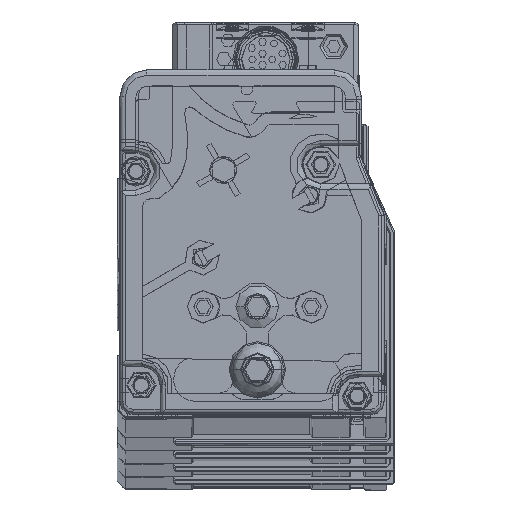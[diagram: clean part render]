
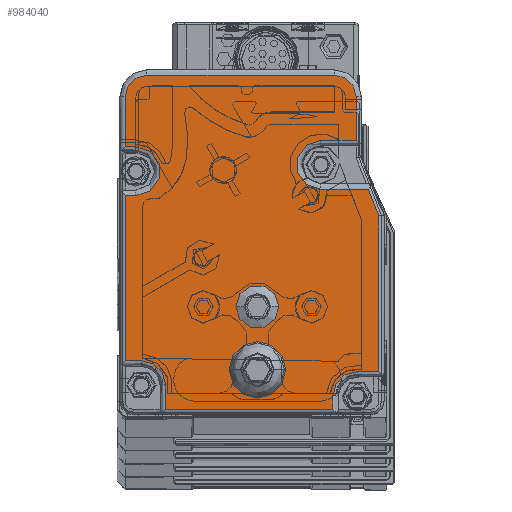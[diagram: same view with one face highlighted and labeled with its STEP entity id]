
A CAD part, top view. The second image highlights one B-rep face of the part: STEP entity #984040.
In plain terms, the highlighted planar face has unit normal (0, 0, 1).
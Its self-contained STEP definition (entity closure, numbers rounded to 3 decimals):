
#981930=CARTESIAN_POINT('',(-20.265,1.758,
4372.39));
#981940=DIRECTION('',(0.,0.,-1.));
#981950=DIRECTION('',(-1.,0.,0.));
#981960=AXIS2_PLACEMENT_3D('',#981930,#981940,#981950);
#981970=PLANE('',#981960);
#981980=CARTESIAN_POINT('',(-44.056,10.421,
4372.39));
#981990=DIRECTION('',(0.,0.,-1.));
#982000=DIRECTION('',(-1.,0.,0.));
#982010=AXIS2_PLACEMENT_3D('',#981980,#981990,#982000);
#982020=CIRCLE('',#982010,5.);
#982030=CARTESIAN_POINT('',(-49.056,10.421,
4372.39));
#982040=VERTEX_POINT('',#982030);
#982050=CARTESIAN_POINT('',(-39.056,10.421,
4372.39));
#982060=VERTEX_POINT('',#982050);
#982070=EDGE_CURVE('',#982040,#982060,#982020,.T.);
#982080=ORIENTED_EDGE('',*,*,#982070,.T.);
#982090=EDGE_CURVE('',#982060,#982040,#982020,.T.);
#982100=ORIENTED_EDGE('',*,*,#982090,.T.);
#982110=EDGE_LOOP('',(#982100,#982080));
#982120=FACE_BOUND('',#982110,.T.);
#982130=CARTESIAN_POINT('',(-44.059,22.124,
4372.39));
#982140=DIRECTION('',(0.,0.,1.));
#982150=DIRECTION('',(-1.,0.,0.));
#982160=AXIS2_PLACEMENT_3D('',#982130,#982140,#982150);
#982170=CIRCLE('',#982160,4.);
#982180=CARTESIAN_POINT('',(-40.059,22.124,
4372.39));
#982190=VERTEX_POINT('',#982180);
#982200=CARTESIAN_POINT('',(-48.059,22.124,
4372.39));
#982210=VERTEX_POINT('',#982200);
#982220=EDGE_CURVE('',#982190,#982210,#982170,.T.);
#982230=ORIENTED_EDGE('',*,*,#982220,.F.);
#982240=EDGE_CURVE('',#982210,#982190,#982170,.T.);
#982250=ORIENTED_EDGE('',*,*,#982240,.F.);
#982260=EDGE_LOOP('',(#982250,#982230));
#982270=FACE_BOUND('',#982260,.T.);
#982280=CARTESIAN_POINT('',(-61.059,2.124,
4372.39));
#982290=DIRECTION('',(0.,-1.,0.));
#982300=VECTOR('',#982290,1.);
#982310=LINE('',#982280,#982300);
#982320=CARTESIAN_POINT('',(-61.059,7.624,
4372.39));
#982330=VERTEX_POINT('',#982320);
#982340=CARTESIAN_POINT('',(-61.059,3.124,
4372.39));
#982350=VERTEX_POINT('',#982340);
#982360=EDGE_CURVE('',#982330,#982350,#982310,.T.);
#982370=ORIENTED_EDGE('',*,*,#982360,.T.);
#982380=CARTESIAN_POINT('',(-65.559,7.624,
4372.39));
#982390=DIRECTION('',(0.,0.,-1.));
#982400=DIRECTION('',(-1.,0.,0.));
#982410=AXIS2_PLACEMENT_3D('',#982380,#982390,#982400);
#982420=CIRCLE('',#982410,4.5);
#982430=CARTESIAN_POINT('',(-65.559,12.124,
4372.39));
#982440=VERTEX_POINT('',#982430);
#982450=EDGE_CURVE('',#982440,#982330,#982420,.T.);
#982460=ORIENTED_EDGE('',*,*,#982450,.T.);
#982470=CARTESIAN_POINT('',(-20.559,12.124,
4372.39));
#982480=DIRECTION('',(1.,0.,0.));
#982490=VECTOR('',#982480,1.);
#982500=LINE('',#982470,#982490);
#982510=CARTESIAN_POINT('',(-68.559,12.124,
4372.39));
#982520=VERTEX_POINT('',#982510);
#982530=EDGE_CURVE('',#982520,#982440,#982500,.T.);
#982540=ORIENTED_EDGE('',*,*,#982530,.T.);
#982550=CARTESIAN_POINT('',(-68.559,2.124,
4372.39));
#982560=DIRECTION('',(0.,-1.,0.));
#982570=VECTOR('',#982560,1.);
#982580=LINE('',#982550,#982570);
#982590=CARTESIAN_POINT('',(-68.559,42.727,
4372.39));
#982600=VERTEX_POINT('',#982590);
#982610=EDGE_CURVE('',#982600,#982520,#982580,.T.);
#982620=ORIENTED_EDGE('',*,*,#982610,.T.);
#982630=CARTESIAN_POINT('',(-20.559,42.727,
4372.39));
#982640=DIRECTION('',(-1.,0.,0.));
#982650=VECTOR('',#982640,1.);
#982660=LINE('',#982630,#982650);
#982670=CARTESIAN_POINT('',(-66.559,42.727,
4372.39));
#982680=VERTEX_POINT('',#982670);
#982690=EDGE_CURVE('',#982680,#982600,#982660,.T.);
#982700=ORIENTED_EDGE('',*,*,#982690,.T.);
#982710=CARTESIAN_POINT('',(-66.559,47.227,
4372.39));
#982720=DIRECTION('',(0.,0.,-1.));
#982730=DIRECTION('',(-1.,0.,0.));
#982740=AXIS2_PLACEMENT_3D('',#982710,#982720,#982730);
#982750=CIRCLE('',#982740,4.5);
#982760=CARTESIAN_POINT('',(-66.559,51.727,
4372.39));
#982770=VERTEX_POINT('',#982760);
#982780=EDGE_CURVE('',#982770,#982680,#982750,.T.);
#982790=ORIENTED_EDGE('',*,*,#982780,.T.);
#982800=CARTESIAN_POINT('',(-20.559,51.727,
4372.39));
#982810=DIRECTION('',(1.,0.,0.));
#982820=VECTOR('',#982810,1.);
#982830=LINE('',#982800,#982820);
#982840=CARTESIAN_POINT('',(-68.559,51.727,
4372.39));
#982850=VERTEX_POINT('',#982840);
#982860=EDGE_CURVE('',#982850,#982770,#982830,.T.);
#982870=ORIENTED_EDGE('',*,*,#982860,.T.);
#982880=CARTESIAN_POINT('',(-68.559,2.124,
4372.39));
#982890=DIRECTION('',(0.,-1.,0.));
#982900=VECTOR('',#982890,1.);
#982910=LINE('',#982880,#982900);
#982920=CARTESIAN_POINT('',(-68.559,61.024,
4372.39));
#982930=VERTEX_POINT('',#982920);
#982940=EDGE_CURVE('',#982930,#982850,#982910,.T.);
#982950=ORIENTED_EDGE('',*,*,#982940,.T.);
#982960=CARTESIAN_POINT('',(-64.559,61.024,
4372.39));
#982970=DIRECTION('',(0.,0.,1.));
#982980=DIRECTION('',(1.,0.,0.));
#982990=AXIS2_PLACEMENT_3D('',#982960,#982970,#982980);
#983000=CIRCLE('',#982990,4.);
#983010=CARTESIAN_POINT('',(-64.559,65.024,
4372.39));
#983020=VERTEX_POINT('',#983010);
#983030=EDGE_CURVE('',#983020,#982930,#983000,.T.);
#983040=ORIENTED_EDGE('',*,*,#983030,.T.);
#983050=CARTESIAN_POINT('',(-20.559,65.024,
4372.39));
#983060=DIRECTION('',(-1.,0.,0.));
#983070=VECTOR('',#983060,1.);
#983080=LINE('',#983050,#983070);
#983090=CARTESIAN_POINT('',(-29.759,65.024,
4372.39));
#983100=VERTEX_POINT('',#983090);
#983110=EDGE_CURVE('',#983100,#983020,#983080,.T.);
#983120=ORIENTED_EDGE('',*,*,#983110,.T.);
#983130=CARTESIAN_POINT('',(-29.759,61.024,
4372.39));
#983140=DIRECTION('',(0.,0.,1.));
#983150=DIRECTION('',(1.,0.,0.));
#983160=AXIS2_PLACEMENT_3D('',#983130,#983140,#983150);
#983170=CIRCLE('',#983160,4.);
#983180=CARTESIAN_POINT('',(-25.759,61.024,
4372.39));
#983190=VERTEX_POINT('',#983180);
#983200=EDGE_CURVE('',#983190,#983100,#983170,.T.);
#983210=ORIENTED_EDGE('',*,*,#983200,.T.);
#983220=CARTESIAN_POINT('',(-25.759,2.124,
4372.39));
#983230=DIRECTION('',(0.,1.,0.));
#983240=VECTOR('',#983230,1.);
#983250=LINE('',#983220,#983240);
#983260=CARTESIAN_POINT('',(-25.759,52.924,
4372.39));
#983270=VERTEX_POINT('',#983260);
#983280=EDGE_CURVE('',#983270,#983190,#983250,.T.);
#983290=ORIENTED_EDGE('',*,*,#983280,.T.);
#983300=CARTESIAN_POINT('',(-20.559,52.924,
4372.39));
#983310=DIRECTION('',(-1.,0.,0.));
#983320=VECTOR('',#983310,1.);
#983330=LINE('',#983300,#983320);
#983340=CARTESIAN_POINT('',(-32.309,52.924,
4372.39));
#983350=VERTEX_POINT('',#983340);
#983360=EDGE_CURVE('',#983270,#983350,#983330,.T.);
#983370=ORIENTED_EDGE('',*,*,#983360,.F.);
#983380=CARTESIAN_POINT('',(-32.309,48.424,
4372.39));
#983390=DIRECTION('',(0.,0.,-1.));
#983400=DIRECTION('',(-1.,0.,0.));
#983410=AXIS2_PLACEMENT_3D('',#983380,#983390,#983400);
#983420=CIRCLE('',#983410,4.5);
#983430=CARTESIAN_POINT('',(-32.309,43.924,
4372.39));
#983440=VERTEX_POINT('',#983430);
#983450=EDGE_CURVE('',#983440,#983350,#983420,.T.);
#983460=ORIENTED_EDGE('',*,*,#983450,.T.);
#983470=CARTESIAN_POINT('',(-20.559,43.924,
4372.39));
#983480=DIRECTION('',(-1.,0.,0.));
#983490=VECTOR('',#983480,1.);
#983500=LINE('',#983470,#983490);
#983510=CARTESIAN_POINT('',(-23.499,43.924,
4372.39));
#983520=VERTEX_POINT('',#983510);
#983530=EDGE_CURVE('',#983520,#983440,#983500,.T.);
#983540=ORIENTED_EDGE('',*,*,#983530,.T.);
#983550=CARTESIAN_POINT('',(-7.243,2.124,
4372.39));
#983560=DIRECTION('',(0.362,-0.932,0.));
#983570=VECTOR('',#983560,1.);
#983580=LINE('',#983550,#983570);
#983590=CARTESIAN_POINT('',(-21.559,38.937,
4372.39));
#983600=VERTEX_POINT('',#983590);
#983610=EDGE_CURVE('',#983520,#983600,#983580,.T.);
#983620=ORIENTED_EDGE('',*,*,#983610,.F.);
#983630=CARTESIAN_POINT('',(-21.559,2.124,
4372.39));
#983640=DIRECTION('',(0.,-1.,0.));
#983650=VECTOR('',#983640,1.);
#983660=LINE('',#983630,#983650);
#983670=CARTESIAN_POINT('',(-21.559,10.124,
4372.39));
#983680=VERTEX_POINT('',#983670);
#983690=EDGE_CURVE('',#983600,#983680,#983660,.T.);
#983700=ORIENTED_EDGE('',*,*,#983690,.F.);
#983710=CARTESIAN_POINT('',(-20.559,10.124,
4372.39));
#983720=DIRECTION('',(1.,0.,0.));
#983730=VECTOR('',#983720,1.);
#983740=LINE('',#983710,#983730);
#983750=CARTESIAN_POINT('',(-25.559,10.124,
4372.39));
#983760=VERTEX_POINT('',#983750);
#983770=EDGE_CURVE('',#983760,#983680,#983740,.T.);
#983780=ORIENTED_EDGE('',*,*,#983770,.T.);
#983790=CARTESIAN_POINT('',(-25.559,5.624,
4372.39));
#983800=DIRECTION('',(0.,0.,-1.));
#983810=DIRECTION('',(-1.,0.,0.));
#983820=AXIS2_PLACEMENT_3D('',#983790,#983800,#983810);
#983830=CIRCLE('',#983820,4.5);
#983840=CARTESIAN_POINT('',(-30.059,5.624,
4372.39));
#983850=VERTEX_POINT('',#983840);
#983860=EDGE_CURVE('',#983850,#983760,#983830,.T.);
#983870=ORIENTED_EDGE('',*,*,#983860,.T.);
#983880=CARTESIAN_POINT('',(-30.059,2.124,
4372.39));
#983890=DIRECTION('',(0.,1.,0.));
#983900=VECTOR('',#983890,1.);
#983910=LINE('',#983880,#983900);
#983920=CARTESIAN_POINT('',(-30.059,3.124,
4372.39));
#983930=VERTEX_POINT('',#983920);
#983940=EDGE_CURVE('',#983930,#983850,#983910,.T.);
#983950=ORIENTED_EDGE('',*,*,#983940,.T.);
#983960=CARTESIAN_POINT('',(-20.559,3.124,
4372.39));
#983970=DIRECTION('',(-1.,0.,0.));
#983980=VECTOR('',#983970,1.);
#983990=LINE('',#983960,#983980);
#984000=EDGE_CURVE('',#983930,#982350,#983990,.T.);
#984010=ORIENTED_EDGE('',*,*,#984000,.F.);
#984020=EDGE_LOOP('',(#984010,#983950,#983870,#983780,#983700,#983620,
#983540,#983460,#983370,#983290,#983210,#983120,#983040,#982950,#982870,
#982790,#982700,#982620,#982540,#982460,#982370));
#984030=FACE_OUTER_BOUND('',#984020,.T.);
#984040=ADVANCED_FACE('',(#982120,#982270,#984030),#981970,.F.);
